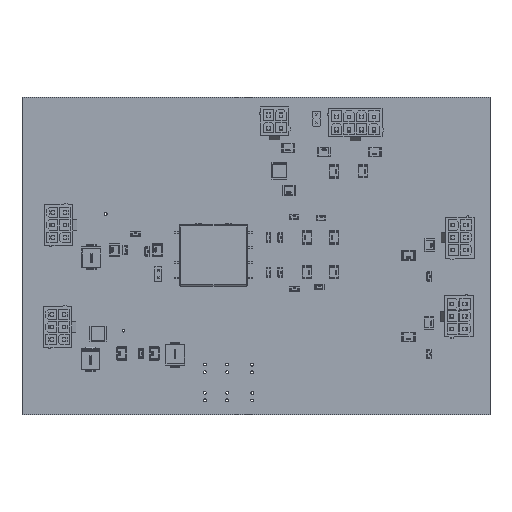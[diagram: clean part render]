
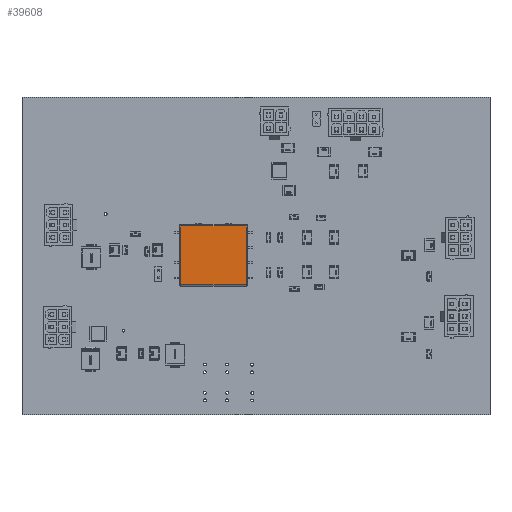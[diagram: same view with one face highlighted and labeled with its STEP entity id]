
A CAD part, top view. The second image highlights one B-rep face of the part: STEP entity #39608.
In plain terms, the highlighted planar face has unit normal (0, 0, 1) as drawn and (0, 1, 0) by its records, which use the part's own axes.
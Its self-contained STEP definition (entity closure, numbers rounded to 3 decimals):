
#39608 = ADVANCED_FACE('',(#39609),#39675,.T.);
#39609 = FACE_BOUND('',#39610,.T.);
#39610 = EDGE_LOOP('',(#39611,#39621,#39629,#39637,#39645,#39653,#39661,
    #39669));
#39611 = ORIENTED_EDGE('',*,*,#39612,.T.);
#39612 = EDGE_CURVE('',#39613,#39615,#39617,.T.);
#39613 = VERTEX_POINT('',#39614);
#39614 = CARTESIAN_POINT('',(-11.,8.8,-9.85));
#39615 = VERTEX_POINT('',#39616);
#39616 = CARTESIAN_POINT('',(-11.,8.8,9.85));
#39617 = LINE('',#39618,#39619);
#39618 = CARTESIAN_POINT('',(-11.,8.8,-9.85));
#39619 = VECTOR('',#39620,1.);
#39620 = DIRECTION('',(0.,0.,1.));
#39621 = ORIENTED_EDGE('',*,*,#39622,.T.);
#39622 = EDGE_CURVE('',#39615,#39623,#39625,.T.);
#39623 = VERTEX_POINT('',#39624);
#39624 = CARTESIAN_POINT('',(-11.,8.8,9.95));
#39625 = LINE('',#39626,#39627);
#39626 = CARTESIAN_POINT('',(-11.,8.8,0.));
#39627 = VECTOR('',#39628,1.);
#39628 = DIRECTION('',(0.,0.,1.));
#39629 = ORIENTED_EDGE('',*,*,#39630,.T.);
#39630 = EDGE_CURVE('',#39623,#39631,#39633,.T.);
#39631 = VERTEX_POINT('',#39632);
#39632 = CARTESIAN_POINT('',(11.,8.8,9.95));
#39633 = LINE('',#39634,#39635);
#39634 = CARTESIAN_POINT('',(-11.,8.8,9.95));
#39635 = VECTOR('',#39636,1.);
#39636 = DIRECTION('',(1.,0.,0.));
#39637 = ORIENTED_EDGE('',*,*,#39638,.T.);
#39638 = EDGE_CURVE('',#39631,#39639,#39641,.T.);
#39639 = VERTEX_POINT('',#39640);
#39640 = CARTESIAN_POINT('',(11.,8.8,9.85));
#39641 = LINE('',#39642,#39643);
#39642 = CARTESIAN_POINT('',(11.,8.8,0.));
#39643 = VECTOR('',#39644,1.);
#39644 = DIRECTION('',(0.,0.,-1.));
#39645 = ORIENTED_EDGE('',*,*,#39646,.T.);
#39646 = EDGE_CURVE('',#39639,#39647,#39649,.T.);
#39647 = VERTEX_POINT('',#39648);
#39648 = CARTESIAN_POINT('',(11.,8.8,-9.85));
#39649 = LINE('',#39650,#39651);
#39650 = CARTESIAN_POINT('',(11.,8.8,9.85));
#39651 = VECTOR('',#39652,1.);
#39652 = DIRECTION('',(0.,0.,-1.));
#39653 = ORIENTED_EDGE('',*,*,#39654,.T.);
#39654 = EDGE_CURVE('',#39647,#39655,#39657,.T.);
#39655 = VERTEX_POINT('',#39656);
#39656 = CARTESIAN_POINT('',(11.,8.8,-9.95));
#39657 = LINE('',#39658,#39659);
#39658 = CARTESIAN_POINT('',(11.,8.8,0.));
#39659 = VECTOR('',#39660,1.);
#39660 = DIRECTION('',(0.,0.,-1.));
#39661 = ORIENTED_EDGE('',*,*,#39662,.T.);
#39662 = EDGE_CURVE('',#39655,#39663,#39665,.T.);
#39663 = VERTEX_POINT('',#39664);
#39664 = CARTESIAN_POINT('',(-11.,8.8,-9.95));
#39665 = LINE('',#39666,#39667);
#39666 = CARTESIAN_POINT('',(11.,8.8,-9.95));
#39667 = VECTOR('',#39668,1.);
#39668 = DIRECTION('',(-1.,0.,0.));
#39669 = ORIENTED_EDGE('',*,*,#39670,.T.);
#39670 = EDGE_CURVE('',#39663,#39613,#39671,.T.);
#39671 = LINE('',#39672,#39673);
#39672 = CARTESIAN_POINT('',(-11.,8.8,0.));
#39673 = VECTOR('',#39674,1.);
#39674 = DIRECTION('',(0.,0.,1.));
#39675 = PLANE('',#39676);
#39676 = AXIS2_PLACEMENT_3D('',#39677,#39678,#39679);
#39677 = CARTESIAN_POINT('',(0.,8.8,0.));
#39678 = DIRECTION('',(0.,1.,0.));
#39679 = DIRECTION('',(0.,0.,1.));
